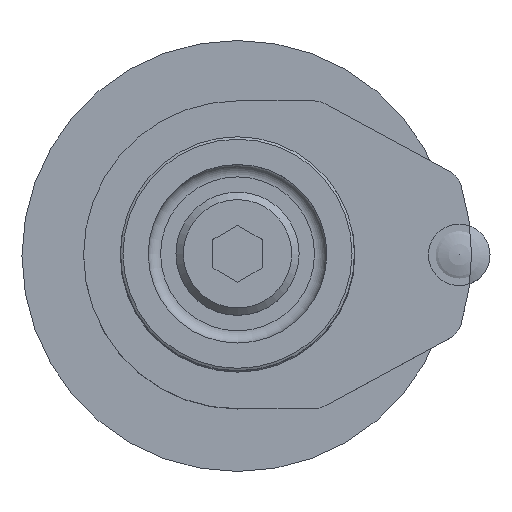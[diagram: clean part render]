
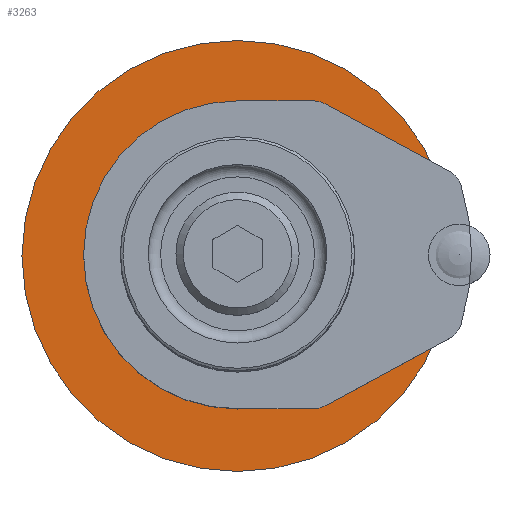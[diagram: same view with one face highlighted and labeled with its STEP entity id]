
A CAD part, top view. The second image highlights one B-rep face of the part: STEP entity #3263.
In plain terms, the highlighted planar face has unit normal (0, 0, 1).
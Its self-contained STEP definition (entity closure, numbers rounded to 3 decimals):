
#2889=FACE_OUTER_BOUND('',#4260,.T.);
#3263=ADVANCED_FACE('',(#2889),#3350,.F.);
#3350=PLANE('',#6892);
#3655=CIRCLE('',#6890,17.5);
#4260=EDGE_LOOP('',(#5250));
#5250=ORIENTED_EDGE('',*,*,#6080,.F.);
#5585=VERTEX_POINT('',#10036);
#6080=EDGE_CURVE('',#5585,#5585,#3655,.T.);
#6890=AXIS2_PLACEMENT_3D('',#10035,#8166,#8167);
#6892=AXIS2_PLACEMENT_3D('',#10038,#8170,#8171);
#8166=DIRECTION('',(0.,0.,-1.));
#8167=DIRECTION('',(0.,1.,0.));
#8170=DIRECTION('',(0.,0.,-1.));
#8171=DIRECTION('',(-1.,0.,0.));
#10035=CARTESIAN_POINT('',(0.,0.,70.));
#10036=CARTESIAN_POINT('',(0.,17.5,70.));
#10038=CARTESIAN_POINT('',(0.,0.,70.));
